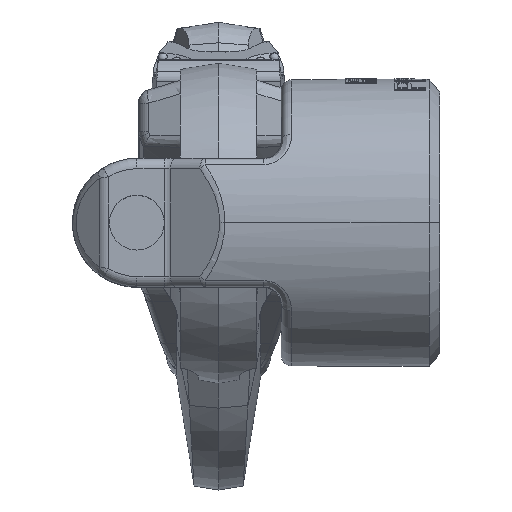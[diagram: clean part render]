
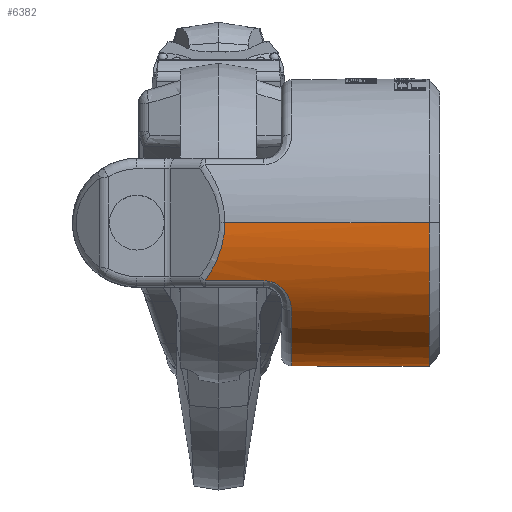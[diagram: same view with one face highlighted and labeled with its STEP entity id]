
A CAD part, top view. The second image highlights one B-rep face of the part: STEP entity #6382.
In plain terms, the highlighted cylindrical face has radius 41.25 mm (diameter 82.5 mm), a partial arc.
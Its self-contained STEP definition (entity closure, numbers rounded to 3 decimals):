
#811=DIRECTION('',(1.,0.,0.));
#812=VECTOR('',#811,58.696);
#813=CARTESIAN_POINT('',(43.804,0.,
-41.25));
#814=LINE('',#813,#812);
#1246=CARTESIAN_POINT('',(102.5,0.,0.));
#1247=DIRECTION('',(1.,0.,0.));
#1248=DIRECTION('',(0.,0.,1.));
#1249=AXIS2_PLACEMENT_3D('',#1246,#1247,#1248);
#1251=CARTESIAN_POINT('',(38.121,-16.716,
-37.711));
#1252=CARTESIAN_POINT('',(38.683,-15.926,
-38.061));
#1253=CARTESIAN_POINT('',(39.72,-14.337,
-38.707));
#1254=CARTESIAN_POINT('',(41.038,-11.885,
-39.528));
#1255=CARTESIAN_POINT('',(42.05,-9.529,
-40.158));
#1256=CARTESIAN_POINT('',(42.818,-7.216,
-40.636));
#1257=CARTESIAN_POINT('',(43.366,-4.928,
-40.977));
#1258=CARTESIAN_POINT('',(43.721,-2.509,
-41.198));
#1259=CARTESIAN_POINT('',(43.804,-0.846,
-41.25));
#1260=CARTESIAN_POINT('',(43.804,0.,
-41.25));
#1262=DIRECTION('',(-1.,0.,0.));
#1263=VECTOR('',#1262,16.879);
#1264=CARTESIAN_POINT('',(55.,-16.716,
-37.711));
#1265=LINE('',#1264,#1263);
#1266=CARTESIAN_POINT('',(63.,-25.343,-32.547));
#1267=CARTESIAN_POINT('',(63.,-25.131,
-32.712));
#1268=CARTESIAN_POINT('',(62.985,-24.704,
-33.038));
#1269=CARTESIAN_POINT('',(62.919,-24.059,
-33.511));
#1270=CARTESIAN_POINT('',(62.805,-23.41,
-33.967));
#1271=CARTESIAN_POINT('',(62.642,-22.761,
-34.405));
#1272=CARTESIAN_POINT('',(62.427,-22.111,
-34.826));
#1273=CARTESIAN_POINT('',(62.156,-21.463,
-35.229));
#1274=CARTESIAN_POINT('',(61.825,-20.821,
-35.612));
#1275=CARTESIAN_POINT('',(61.44,-20.207,
-35.964));
#1276=CARTESIAN_POINT('',(61.014,-19.639,
-36.277));
#1277=CARTESIAN_POINT('',(60.557,-19.124,
-36.551));
#1278=CARTESIAN_POINT('',(60.081,-18.668,
-36.785));
#1279=CARTESIAN_POINT('',(59.576,-18.255,
-36.992));
#1280=CARTESIAN_POINT('',(59.023,-17.875,
-37.177));
#1281=CARTESIAN_POINT('',(58.436,-17.541,
-37.335));
#1282=CARTESIAN_POINT('',(57.82,-17.259,
-37.466));
#1283=CARTESIAN_POINT('',(57.174,-17.029,
-37.571));
#1284=CARTESIAN_POINT('',(56.493,-16.856,
-37.649));
#1285=CARTESIAN_POINT('',(55.773,-16.744,
-37.699));
#1286=CARTESIAN_POINT('',(55.263,-16.716,
-37.711));
#1287=CARTESIAN_POINT('',(55.,-16.716,
-37.711));
#1289=CARTESIAN_POINT('',(63.,0.,0.));
#1290=DIRECTION('',(1.,0.,0.));
#1291=DIRECTION('',(0.,-0.614,0.789));
#1292=AXIS2_PLACEMENT_3D('',#1289,#1290,#1291);
#1294=CARTESIAN_POINT('',(55.,-16.716,37.711));
#1295=CARTESIAN_POINT('',(55.264,-16.716,37.711));
#1296=CARTESIAN_POINT('',(55.776,-16.744,37.699));
#1297=CARTESIAN_POINT('',(56.497,-16.857,37.649));
#1298=CARTESIAN_POINT('',(57.179,-17.031,37.57));
#1299=CARTESIAN_POINT('',(57.827,-17.261,37.465));
#1300=CARTESIAN_POINT('',(58.444,-17.545,37.333));
#1301=CARTESIAN_POINT('',(59.035,-17.882,37.173));
#1302=CARTESIAN_POINT('',(59.587,-18.264,36.987));
#1303=CARTESIAN_POINT('',(60.089,-18.675,36.782));
#1304=CARTESIAN_POINT('',(60.558,-19.125,36.55));
#1305=CARTESIAN_POINT('',(61.009,-19.633,36.28));
#1306=CARTESIAN_POINT('',(61.432,-20.195,35.971));
#1307=CARTESIAN_POINT('',(61.818,-20.809,35.619));
#1308=CARTESIAN_POINT('',(62.152,-21.454,35.234));
#1309=CARTESIAN_POINT('',(62.424,-22.104,34.83));
#1310=CARTESIAN_POINT('',(62.64,-22.756,34.409));
#1311=CARTESIAN_POINT('',(62.804,-23.406,33.969));
#1312=CARTESIAN_POINT('',(62.918,-24.055,33.513));
#1313=CARTESIAN_POINT('',(62.985,-24.701,33.04));
#1314=CARTESIAN_POINT('',(63.,-25.13,32.713));
#1315=CARTESIAN_POINT('',(63.,-25.343,32.547));
#1317=DIRECTION('',(1.,0.,0.));
#1318=VECTOR('',#1317,16.879);
#1319=CARTESIAN_POINT('',(38.121,-16.716,37.711));
#1320=LINE('',#1319,#1318);
#1321=CARTESIAN_POINT('',(43.804,0.,
41.25));
#1322=CARTESIAN_POINT('',(43.804,-0.774,
41.25));
#1323=CARTESIAN_POINT('',(43.733,-2.322,41.206));
#1324=CARTESIAN_POINT('',(43.426,-4.595,41.015));
#1325=CARTESIAN_POINT('',(42.9,-6.931,40.687));
#1326=CARTESIAN_POINT('',(42.123,-9.35,40.203));
#1327=CARTESIAN_POINT('',(41.036,-11.904,39.526));
#1328=CARTESIAN_POINT('',(39.632,-14.485,38.653));
#1329=CARTESIAN_POINT('',(38.637,-15.991,38.033));
#1330=CARTESIAN_POINT('',(38.121,-16.716,37.711));
#1332=DIRECTION('',(1.,0.,0.));
#1333=VECTOR('',#1332,58.696);
#1334=CARTESIAN_POINT('',(43.804,0.,
41.25));
#1335=LINE('',#1334,#1333);
#4289=CARTESIAN_POINT('',(43.804,0.,41.25));
#4291=VERTEX_POINT('',#4289);
#4293=CARTESIAN_POINT('',(43.804,0.,
-41.25));
#4295=VERTEX_POINT('',#4293);
#4299=VERTEX_POINT('',#1294);
#4300=VERTEX_POINT('',#1315);
#4301=CARTESIAN_POINT('',(38.121,-16.716,37.711));
#4302=VERTEX_POINT('',#4301);
#4325=VERTEX_POINT('',#1266);
#4326=VERTEX_POINT('',#1287);
#4331=CARTESIAN_POINT('',(38.121,-16.716,
-37.711));
#4332=VERTEX_POINT('',#4331);
#5073=CARTESIAN_POINT('',(102.5,0.,-41.25));
#5074=CARTESIAN_POINT('',(102.5,0.,41.25));
#5075=VERTEX_POINT('',#5073);
#5076=VERTEX_POINT('',#5074);
#6358=CARTESIAN_POINT('',(0.,0.,0.));
#6359=DIRECTION('',(1.,0.,0.));
#6360=DIRECTION('',(0.,0.,-1.));
#6361=AXIS2_PLACEMENT_3D('',#6358,#6359,#6360);
#6362=CYLINDRICAL_SURFACE('',#6361,41.25);
#6363=ORIENTED_EDGE('',*,*,#5097,.T.);
#6364=ORIENTED_EDGE('',*,*,#5139,.F.);
#6366=ORIENTED_EDGE('',*,*,#6365,.F.);
#6368=ORIENTED_EDGE('',*,*,#6367,.F.);
#6370=ORIENTED_EDGE('',*,*,#6369,.F.);
#6372=ORIENTED_EDGE('',*,*,#6371,.F.);
#6374=ORIENTED_EDGE('',*,*,#6373,.F.);
#6376=ORIENTED_EDGE('',*,*,#6375,.F.);
#6378=ORIENTED_EDGE('',*,*,#6377,.F.);
#6379=ORIENTED_EDGE('',*,*,#5123,.T.);
#6380=EDGE_LOOP('',(#6363,#6364,#6366,#6368,#6370,#6372,#6374,#6376,#6378,
#6379));
#6381=FACE_OUTER_BOUND('',#6380,.F.);
#6382=ADVANCED_FACE('',(#6381),#6362,.T.);
#1250=CIRCLE('',#1249,41.25);
#1261=B_SPLINE_CURVE_WITH_KNOTS('',3,(#1251,#1252,#1253,#1254,#1255,#1256,#1257,
#1258,#1259,#1260),.UNSPECIFIED.,.F.,.F.,(4,1,1,1,1,1,1,4),(0.,
0.143,0.286,0.429,0.571,
0.714,0.857,1.),.UNSPECIFIED.);
#1288=B_SPLINE_CURVE_WITH_KNOTS('',3,(#1266,#1267,#1268,#1269,#1270,#1271,#1272,
#1273,#1274,#1275,#1276,#1277,#1278,#1279,#1280,#1281,#1282,#1283,#1284,#1285,
#1286,#1287),.UNSPECIFIED.,.F.,.F.,(4,1,1,1,1,1,1,1,1,1,1,1,1,1,1,1,1,1,1,4),(
0.,0.053,0.105,0.158,0.211,
0.263,0.316,0.368,0.421,
0.474,0.526,0.579,0.632,
0.684,0.737,0.789,0.842,
0.895,0.947,1.),.UNSPECIFIED.);
#1293=CIRCLE('',#1292,41.25);
#1316=B_SPLINE_CURVE_WITH_KNOTS('',3,(#1294,#1295,#1296,#1297,#1298,#1299,#1300,
#1301,#1302,#1303,#1304,#1305,#1306,#1307,#1308,#1309,#1310,#1311,#1312,#1313,
#1314,#1315),.UNSPECIFIED.,.F.,.F.,(4,1,1,1,1,1,1,1,1,1,1,1,1,1,1,1,1,1,1,4),(
0.,0.053,0.105,0.158,0.211,
0.263,0.316,0.368,0.421,
0.474,0.526,0.579,0.632,
0.684,0.737,0.789,0.842,
0.895,0.947,1.),.UNSPECIFIED.);
#1331=B_SPLINE_CURVE_WITH_KNOTS('',3,(#1321,#1322,#1323,#1324,#1325,#1326,#1327,
#1328,#1329,#1330),.UNSPECIFIED.,.F.,.F.,(4,1,1,1,1,1,1,4),(0.,
0.143,0.286,0.429,0.571,
0.714,0.857,1.),.UNSPECIFIED.);
#5097=EDGE_CURVE('',#5076,#5075,#1250,.T.);
#5123=EDGE_CURVE('',#4291,#5076,#1335,.T.);
#5139=EDGE_CURVE('',#4295,#5075,#814,.T.);
#6365=EDGE_CURVE('',#4332,#4295,#1261,.T.);
#6367=EDGE_CURVE('',#4326,#4332,#1265,.T.);
#6369=EDGE_CURVE('',#4325,#4326,#1288,.T.);
#6371=EDGE_CURVE('',#4300,#4325,#1293,.T.);
#6373=EDGE_CURVE('',#4299,#4300,#1316,.T.);
#6375=EDGE_CURVE('',#4302,#4299,#1320,.T.);
#6377=EDGE_CURVE('',#4291,#4302,#1331,.T.);
